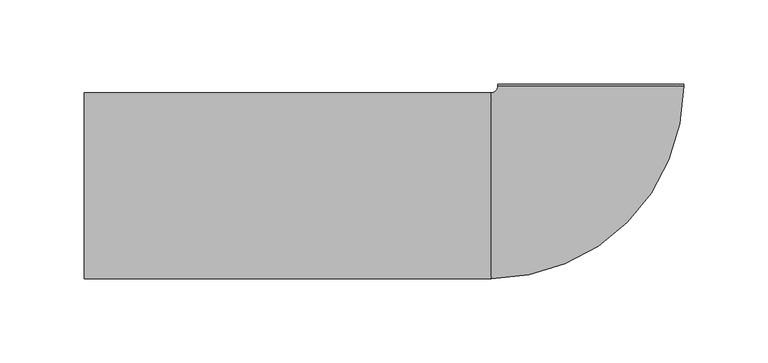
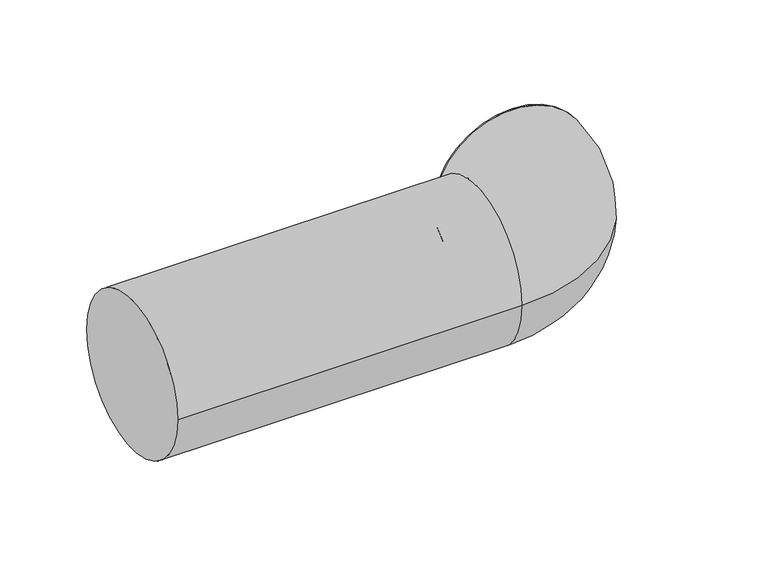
"""IFC4 building model written with IfcOpenShell, lengths in millimetres: pipe fitting geometry, NLRS_52_PIF_UN_PE bocht 90° met lang been en kleine radius_geb : DN90-100 / ø90-110."""

import ifcopenshell
import ifcopenshell.guid

model = None  # the IFC model being written
_history = None  # IfcOwnerHistory: only IFC2X3 demands one
_inside = {}  # id of a spatial element -> (the spatial element, [elements in it])
_under = {}  # id of a project, library or spatial element -> (it, [spatial elements below it])
_declared = {}  # id of a project -> (the project, [libraries it declares])
_typed = {}  # id of a type object -> (the type object, [elements of that type])
_made_of = {}  # id of a material, layer set ... -> (it, [elements and type objects made of it])


def new_model(schema):
    """Start an empty IFC model of exactly this schema.

    Asked for "IFC4X3", IfcOpenShell would pick the latest addendum, in which some entities
    have other attributes; the version numbers below select the first issue.
    IFC2X3 requires an IfcOwnerHistory on every rooted entity: one is made here for all.
    """
    global model, _history
    if schema == "IFC4X3":
        model = ifcopenshell.file(schema_version=(4, 3, 0, 0))
    else:
        model = ifcopenshell.file(schema=schema)
    _inside.clear()
    _under.clear()
    _declared.clear()
    _typed.clear()
    _made_of.clear()
    _history = None
    if model.schema == "IFC2X3":
        org = make("IfcOrganization", Name="unknown")
        user = make(
            "IfcPersonAndOrganization",
            ThePerson=make("IfcPerson", FamilyName="unknown"),
            TheOrganization=org,
        )
        app = make(
            "IfcApplication",
            ApplicationDeveloper=org,
            Version="unknown",
            ApplicationFullName="unknown",
            ApplicationIdentifier="unknown",
        )
        _history = make(
            "IfcOwnerHistory",
            OwningUser=user,
            OwningApplication=app,
            ChangeAction="ADDED",
            CreationDate=0,
        )
    return model


def make(cls, **values):
    """One entity of the class cls with the attributes given. An attribute that is None is left unset."""
    return model.create_entity(
        cls, **{name: value for name, value in values.items() if value is not None}
    )


def rooted(cls, **values):
    """An entity with a GlobalId (a new one), such as an element, a storey or a relation."""
    return make(cls, GlobalId=ifcopenshell.guid.new(), OwnerHistory=_history, **values)


def si_unit(unit_type, name, prefix=None):
    """IfcSIUnit, for example si_unit("LENGTHUNIT", "METRE", prefix="MILLI")."""
    return make("IfcSIUnit", UnitType=unit_type, Prefix=prefix, Name=name)


def assignment(units):
    """IfcUnitAssignment: the units of a project."""
    return None if units is None else make("IfcUnitAssignment", Units=units)


def point(xyz):
    """IfcCartesianPoint."""
    return None if xyz is None else make("IfcCartesianPoint", Coordinates=xyz)


def direction(xyz):
    """IfcDirection."""
    return None if xyz is None else make("IfcDirection", DirectionRatios=xyz)


def frame(location, z_axis=None, x_axis=None):
    """IfcAxis2Placement3D, a coordinate frame: its origin and axes. An axis left out is left unset."""
    return make(
        "IfcAxis2Placement3D",
        Location=point(location),
        Axis=direction(z_axis),
        RefDirection=direction(x_axis),
    )


def origin():
    """The frame at (0, 0, 0) with its axes left unset."""
    return frame((0.0, 0.0, 0.0))


def place(relative_to, where):
    """IfcLocalPlacement: puts the frame where relative to a parent placement (None: the world)."""
    return make(
        "IfcLocalPlacement", PlacementRelTo=relative_to, RelativePlacement=where
    )


def context(
    kind, dimensions, precision=None, world=None, true_north=None, identifier=None
):
    """IfcGeometricRepresentationContext, for example the 3D "Model" context."""
    return make(
        "IfcGeometricRepresentationContext",
        ContextIdentifier=identifier,
        ContextType=kind,
        CoordinateSpaceDimension=dimensions,
        Precision=precision,
        WorldCoordinateSystem=world,
        TrueNorth=true_north,
    )


def project(units=None, contexts=None):
    """IfcProject with its units and contexts."""
    return rooted(
        "IfcProject",
        Name="project",
        RepresentationContexts=contexts,
        UnitsInContext=assignment(units),
    )


def spatial(cls, under=None, at=None, **own):
    """A site, building, storey or space (cls), placed at a placement, below another one or the project."""
    s = rooted(cls, ObjectPlacement=at, **own)
    if under is not None:
        _under.setdefault(under.id(), (under, []))[1].append(s)
    return s


def circle_curve(where, radius):
    """IfcCircle in the frame where."""
    return make("IfcCircle", Position=where, Radius=radius)


def ellipse_curve(where, semi_axis1, semi_axis2):
    """IfcEllipse in the frame where."""
    return make(
        "IfcEllipse", Position=where, SemiAxis1=semi_axis1, SemiAxis2=semi_axis2
    )


def trimmed(basis, trim1, trim2, sense, master):
    """IfcTrimmedCurve: the piece of a basis curve between two trims."""
    return make(
        "IfcTrimmedCurve",
        BasisCurve=basis,
        Trim1=trim1,
        Trim2=trim2,
        SenseAgreement=sense,
        MasterRepresentation=master,
    )


def shape(context_of_items, identifier, shape_type, items):
    """IfcShapeRepresentation: the items that make up one representation, for example the "Body"."""
    return make(
        "IfcShapeRepresentation",
        ContextOfItems=context_of_items,
        RepresentationIdentifier=identifier,
        RepresentationType=shape_type,
        Items=items,
    )


def source(mapping_origin, context_of_items, identifier, shape_type, items):
    """IfcRepresentationMap: a shape defined once, which mapped items show again and again."""
    return make(
        "IfcRepresentationMap",
        MappingOrigin=mapping_origin,
        MappedRepresentation=shape(context_of_items, identifier, shape_type, items),
    )


def transform(
    local_origin,
    x_axis=None,
    y_axis=None,
    z_axis=None,
    scale=None,
    scale2=None,
    scale3=None,
    uniform=True,
):
    """IfcCartesianTransformationOperator3D, or its non-uniform kind. x_axis, y_axis, z_axis: its Axis1, 2, 3."""
    if uniform:
        return make(
            "IfcCartesianTransformationOperator3D",
            Axis1=direction(x_axis),
            Axis2=direction(y_axis),
            LocalOrigin=point(local_origin),
            Scale=scale,
            Axis3=direction(z_axis),
        )
    return make(
        "IfcCartesianTransformationOperator3DnonUniform",
        Axis1=direction(x_axis),
        Axis2=direction(y_axis),
        LocalOrigin=point(local_origin),
        Scale=scale,
        Axis3=direction(z_axis),
        Scale2=scale2,
        Scale3=scale3,
    )


def mapped(mapping_source, mapping_target):
    """IfcMappedItem: shows the shape of a source again, moved by a transform."""
    return make(
        "IfcMappedItem", MappingSource=mapping_source, MappingTarget=mapping_target
    )


def made_of(thing, what):
    """Note that an element or type object is made of a material, layer set ...; save() writes the relation."""
    if what is not None:
        _made_of.setdefault(what.id(), (what, []))[1].append(thing)
    return thing


def element(
    cls,
    number,
    at=None,
    inside=None,
    cuts=None,
    type_object=None,
    material=None,
    context=None,
    identifier="Body",
    shape_type=None,
    held_by="IfcProductDefinitionShape",
    body=None,
    shapes=None,
    **own,
):
    """One element of the class cls, such as IfcWall. Its Tag is "e" and its number.

    at: its placement. inside: the storey or other place that contains it. cuts: it is an
    opening in that element (IfcRelVoidsElement). A single representation is given by context,
    identifier, shape_type and body (its items); several are given by shapes. held_by: the class
    of the entity that holds the representations. save() writes the other relations.
    """
    e = rooted(cls, Tag="e%d" % number, ObjectPlacement=at, **own)
    if body is not None:
        shapes = [shape(context, identifier, shape_type, body)]
    if shapes is not None:
        e.Representation = make(held_by, Representations=shapes)
    if inside is not None:
        _inside.setdefault(inside.id(), (inside, []))[1].append(e)
    if cuts is not None:
        rooted(
            "IfcRelVoidsElement", RelatingBuildingElement=cuts, RelatedOpeningElement=e
        )
    if type_object is not None:
        _typed.setdefault(type_object.id(), (type_object, []))[1].append(e)
    return made_of(e, material)


def aggregate(whole, parts):
    """IfcRelAggregates: a whole, such as a stair, and the parts it consists of."""
    return rooted("IfcRelAggregates", RelatingObject=whole, RelatedObjects=parts)


def save(model, path):
    """Write the relations noted so far, then the file.

    IfcRelAggregates (storeys below a building ...), IfcRelContainedInSpatialStructure (elements
    in a storey), IfcRelDefinesByType, IfcRelAssociatesMaterial and IfcRelDeclares: one each for
    every whole, place, type object, material and project.
    """
    for whole, parts in _under.values():
        aggregate(whole, parts)
    for where, things in _inside.values():
        rooted(
            "IfcRelContainedInSpatialStructure",
            RelatedElements=things,
            RelatingStructure=where,
        )
    for kind, things in _typed.values():
        rooted("IfcRelDefinesByType", RelatedObjects=things, RelatingType=kind)
    for what, things in _made_of.values():
        rooted("IfcRelAssociatesMaterial", RelatedObjects=things, RelatingMaterial=what)
    for by, libraries in _declared.values():
        rooted("IfcRelDeclares", RelatingContext=by, RelatedDefinitions=libraries)
    model.write(path)


def plane_surface(at):
    """IfcPlane: the flat surface through the origin of the frame at, square to its z axis."""
    return make("IfcPlane", Position=at)


def cylinder_surface(at, radius):
    """IfcCylindricalSurface: all points at the distance radius from the z axis of the frame at."""
    return make("IfcCylindricalSurface", Position=at, Radius=radius)


def revolved_surface(curve, axis_point, axis_direction):
    """IfcSurfaceOfRevolution: the curve turned about the line through axis_point along axis_direction."""
    return make(
        "IfcSurfaceOfRevolution",
        SweptCurve=make("IfcArbitraryOpenProfileDef", ProfileType="CURVE", Curve=curve),
        AxisPosition=make("IfcAxis1Placement", Location=point(axis_point), Axis=direction(axis_direction)),
    )


def advanced_brep(points, edges, surfaces, faces):
    """IfcAdvancedBrep: a solid bounded by faces that lie on surfaces and meet in shared edges.

    An edge is (start, end): straight between two places in points (the first is 0);
    or (start, end, curve); or (start, end, curve, False) where it runs against its curve.
    A face is (place in surfaces, loops), or (place, loops, False) where it looks against
    its surface's normal. A loop lists edges by number (the first is 1), with a minus sign
    where the edge is run from its end to its start. The first loop is the outer one.
    """
    corners = [point(p) for p in points]
    vertices = [make("IfcVertexPoint", VertexGeometry=c) for c in corners]
    made = []
    for start, end, *more in edges:
        made.append(
            make(
                "IfcEdgeCurve",
                EdgeStart=vertices[start],
                EdgeEnd=vertices[end],
                EdgeGeometry=more[0] if more else make("IfcPolyline", Points=[corners[start], corners[end]]),
                SameSense=more[1] if len(more) > 1 else True,
            )
        )
    hull = []
    for where, loops, *sense in faces:
        bounds = []
        for j, loop in enumerate(loops):
            ring = [make("IfcOrientedEdge", EdgeElement=made[abs(k) - 1], Orientation=k > 0) for k in loop]
            bounds.append(
                make(
                    "IfcFaceOuterBound" if j == 0 else "IfcFaceBound",
                    Bound=make("IfcEdgeLoop", EdgeList=ring),
                    Orientation=True,
                )
            )
        hull.append(make("IfcAdvancedFace", Bounds=bounds, FaceSurface=surfaces[where], SameSense=sense[0] if sense else True))
    return make("IfcAdvancedBrep", Outer=make("IfcClosedShell", CfsFaces=hull))


def pipe_fitting_891d161b(model_context):
    return source(origin(), model_context, "Body", "AdvancedBrep", [
        advanced_brep(
        [(-55.0, 59.0, 0.0), (-59.0, 55.0, 0.0), (-59.0, -55.0, 0.0), (55.0, 59.0, 0.0), (-300.0, -55.0, 0.0), (-300.0, 55.0, 0.0), (55.0, 60.0, 0.0), (-55.0, 60.0, 0.0)],
        [
            (0, 1, circle_curve(frame((-59.0, 59.0, 0.0), z_axis=(0.0, 0.0, -1.0), x_axis=(0.0, -1.0, 0.0)), 4.0)),
            (1, 2, circle_curve(frame((-59.0, 0.0, 0.0), z_axis=(1.0, 0.0, 0.0), x_axis=(0.0, 1.0, 0.0)), 55.0)),
            (2, 3, circle_curve(frame((-59.0, 59.0, 0.0), z_axis=(0.0, 0.0, 1.0), x_axis=(0.0, -1.0, 0.0)), 114.0)),
            (3, 0, circle_curve(frame((0.0, 59.0, 0.0), z_axis=(0.0, -1.0, 0.0), x_axis=(-1.0, 0.0, 0.0)), 55.0)),
            (2, 1, circle_curve(frame((-59.0, 0.0, 0.0), z_axis=(1.0, 0.0, 0.0), x_axis=(0.0, 1.0, 0.0)), 55.0)),
            (0, 3, circle_curve(frame((0.0, 59.0, 0.0), z_axis=(0.0, -1.0, 0.0), x_axis=(-1.0, 0.0, 0.0)), 55.0)),
            (4, 5, circle_curve(frame((-300.0, 0.0, 0.0), z_axis=(-1.0, 0.0, 0.0), x_axis=(0.0, 1.0, 0.0)), 55.0)),
            (5, 4, circle_curve(frame((-300.0, 0.0, 0.0), z_axis=(-1.0, 0.0, 0.0), x_axis=(0.0, 1.0, 0.0)), 55.0)),
            (4, 2),
            (1, 5),
            (6, 7, circle_curve(frame((0.0, 60.0, 0.0), z_axis=(0.0, 1.0, 0.0), x_axis=(-1.0, 0.0, 0.0)), 55.0)),
            (7, 6, circle_curve(frame((0.0, 60.0, 0.0), z_axis=(0.0, 1.0, 0.0), x_axis=(-1.0, 0.0, 0.0)), 55.0)),
            (3, 6),
            (7, 0),
        ],
        [
            revolved_surface(trimmed(ellipse_curve(frame((-59.0, 0.0, 0.0), z_axis=(-1.0, 0.0, 0.0), x_axis=(0.0, 1.0, 0.0)), 55.0, 55.0), [point((-59.0, -55.0, 0.0))], [point((-59.0, 55.0, 0.0))], True, "CARTESIAN"), (-59.0, 59.0, 0.0), (0.0, 0.0, 1.0)),
            revolved_surface(trimmed(ellipse_curve(frame((-59.0, 0.0, 0.0), z_axis=(-1.0, 0.0, 0.0), x_axis=(0.0, 1.0, 0.0)), 55.0, 55.0), [point((-59.0, 55.0, 0.0))], [point((-59.0, -55.0, 0.0))], True, "CARTESIAN"), (-59.0, 59.0, 0.0), (0.0, 0.0, 1.0)),
            plane_surface(frame((-300.0, 0.0, 0.0), z_axis=(-1.0, 0.0, 0.0), x_axis=(0.0, 0.0, 1.0))),
            cylinder_surface(frame((-300.0, 0.0, 0.0), z_axis=(-1.0, 0.0, 0.0), x_axis=(0.0, 1.0, 0.0)), 55.0),
            plane_surface(frame((0.0, 60.0, 0.0), z_axis=(0.0, 1.0, 0.0), x_axis=(0.0, 0.0, 1.0))),
            cylinder_surface(frame((0.0, 59.0, 0.0), z_axis=(0.0, -1.0, 0.0), x_axis=(-1.0, 0.0, 0.0)), 55.0),
        ],
        [
            (0, [[1, 2, 3, 4]]),
            (1, [[-3, 5, -1, 6]]),
            (2, [[7, 8]]),
            (3, [[-7, 9, -2, 10]]),
            (3, [[-8, -10, -5, -9]]),
            (4, [[11, 12]]),
            (5, [[-4, 13, -12, 14]]),
            (5, [[-6, -14, -11, -13]]),
        ],
    ),
    ])


if __name__ == "__main__":
    model = new_model("IFC4")
    model_context = context("Model", 3, world=origin())
    ifc_project = project(units=[si_unit("LENGTHUNIT", "METRE", prefix="MILLI")], contexts=[model_context])
    site = spatial("IfcSite", under=ifc_project)
    building = spatial("IfcBuilding", under=site)
    placement = place(None, origin())
    pipe_fitting_shape = pipe_fitting_891d161b(model_context)
    element("IfcPipeFitting", 1, ObjectType="NLRS_52_PIF_UN_PE bocht 90° met lang been en kleine radius_geb : DN90-100 / ø90-110", at=placement, inside=building, context=model_context, shape_type="MappedRepresentation", body=[
        mapped(pipe_fitting_shape, transform((0.0, 0.0, 0.0), x_axis=(1.0, 0.0, 0.0), y_axis=(0.0, 1.0, 0.0), z_axis=(0.0, 0.0, 1.0))),
    ])
    save(model, "model.ifc")
